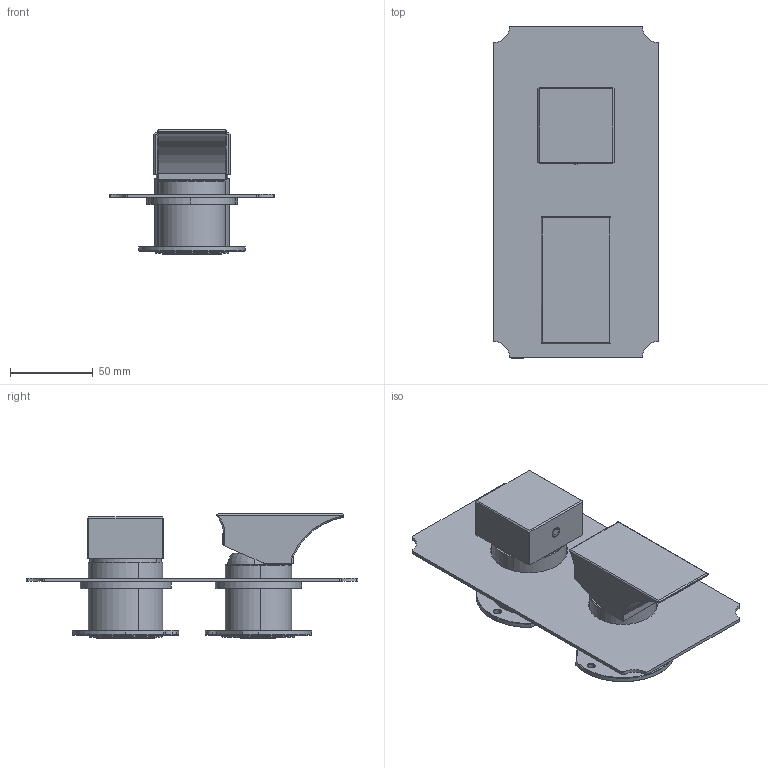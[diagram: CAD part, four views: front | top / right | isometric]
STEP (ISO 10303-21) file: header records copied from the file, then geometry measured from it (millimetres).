
FILE_DESCRIPTION (( 'STEP AP203' ), '1' );
FILE_NAME ('EMR3.STEP', '2019-05-28T09:57:17', ( '' ), ( '' ), 'SwSTEP 2.0', 'SolidWorks 2014', '' );
FILE_SCHEMA (( 'CONFIG_CONTROL_DESIGN' ));
Length unit declared in the file: millimetre
Products named in the file (25): EMR3; form_sealing_K-35A; CARTCUC002; EU1839_0; AS747_00; CARTBAG008; EU1812_0; EU2018_0; CARTK_35; EU1830_0; TAPPHITO01; AS842_00; GRANCO M5x6 ACCIAIO; EU1968_0; EU1838_0; EU1837_0; form_sealing_K-3_K-5; GHISERR3719; EU1831_0; EU1967_0; EU1836_0; CAPP_0; GKEROX35_0; GHISERR4219; AS808_00
Assembly tree (25 placements, depth 4):
  EMR3
    AS842_00
      EU1812_0
      EU1839_0
      EU1838_0
    AS808_00
      EU1831_0
      EU1836_0
      CARTBAG008
      GHISERR4219
      EU1967_0
      form_sealing_K-3_K-5
      EU2018_0
      GRANCO M5x6 ACCIAIO
      TAPPHITO01
    AS747_00
      GHISERR3719
      CARTCUC002
        CARTK_35
        GKEROX35_0
      EU1830_0
      form_sealing_K-35A
      EU1837_0
      CAPP_0
    EU1968_0
    TAPPHITO01
Bounding box: 100 x 200 x 74.7 mm (x, y, z)
Volume: 224757.7 mm3; surface area: 140991.3 mm2
Topology: 22 solids, 22 shells, 970 faces, 2294 edges, 1426 vertices
Faces by surface type: cylinder 400, plane 272, cone 153, bspline 123, torus 22
Entity records: 33036 total; most frequent: CARTESIAN_POINT 8470, DIRECTION 4829, ORIENTED_EDGE 4460, EDGE_CURVE 2230, AXIS2_PLACEMENT_3D 1948, VERTEX_POINT 1388, EDGE_LOOP 1092, CIRCLE 1085
